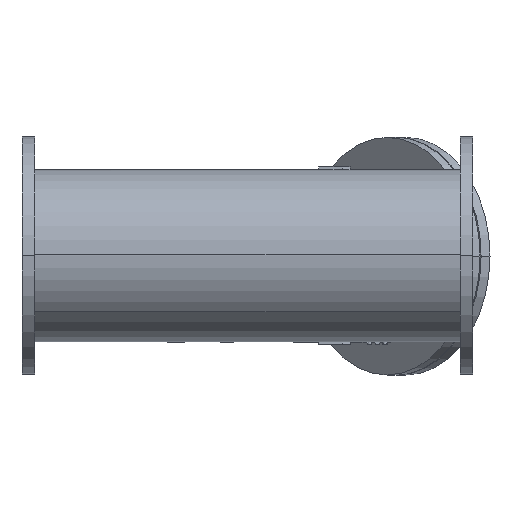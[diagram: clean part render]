
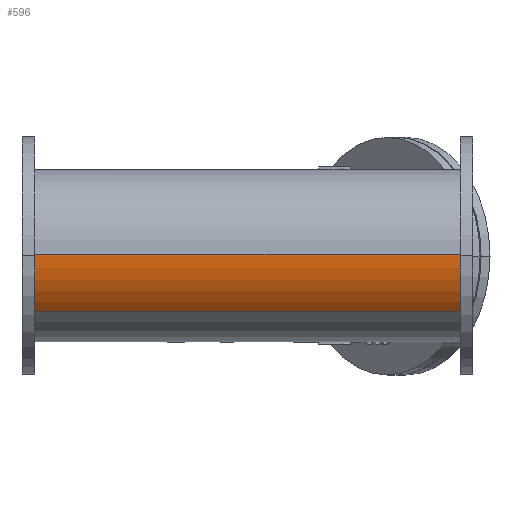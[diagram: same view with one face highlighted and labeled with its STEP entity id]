
A CAD part, top view. The second image highlights one B-rep face of the part: STEP entity #596.
In plain terms, the highlighted cylindrical face has radius 177.8 mm (diameter 355.6 mm), a partial arc.
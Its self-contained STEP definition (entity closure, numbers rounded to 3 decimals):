
#596=ADVANCED_FACE('',(#1703),#1702,.T.);
#1702=CYLINDRICAL_SURFACE('',#5075,177.8);
#1703=FACE_OUTER_BOUND('',#5076,.T.);
#5072=CARTESIAN_POINT('',(0.,0.,0.));
#5073=DIRECTION('',(1.,0.,0.));
#5074=DIRECTION('',(0.,0.009,1.));
#5075=AXIS2_PLACEMENT_3D('',#5072,#5073,#5074);
#5076=EDGE_LOOP('',(#6674,#6675,#6676,#6677,#6678,#6679));
#6674=ORIENTED_EDGE('',*,*,#7573,.T.);
#6675=ORIENTED_EDGE('',*,*,#7575,.T.);
#6676=ORIENTED_EDGE('',*,*,#7598,.F.);
#6677=ORIENTED_EDGE('',*,*,#7534,.F.);
#6678=ORIENTED_EDGE('',*,*,#7536,.F.);
#6679=ORIENTED_EDGE('',*,*,#7599,.T.);
#7534=EDGE_CURVE('',#9815,#9816,#9817,.T.);
#7536=EDGE_CURVE('',#9823,#9815,#9830,.T.);
#7573=EDGE_CURVE('',#10088,#10089,#10090,.T.);
#7575=EDGE_CURVE('',#10089,#10096,#10103,.T.);
#7598=EDGE_CURVE('',#9816,#10096,#10257,.T.);
#7599=EDGE_CURVE('',#9823,#10088,#10263,.T.);
#9815=VERTEX_POINT('',#13814);
#9816=VERTEX_POINT('',#13815);
#9817=CIRCLE('',#13819,177.8);
#9823=VERTEX_POINT('',#13820);
#9830=CIRCLE('',#13828,177.8);
#10088=VERTEX_POINT('',#14009);
#10089=VERTEX_POINT('',#14010);
#10090=CIRCLE('',#14014,177.8);
#10096=VERTEX_POINT('',#14015);
#10103=CIRCLE('',#14023,177.8);
#10257=(BOUNDED_CURVE() B_SPLINE_CURVE(1,(#14358,#14359),.UNSPECIFIED.,.F.,.F.) B_SPLINE_CURVE_WITH_KNOTS((2,2),(0.011,0.989),.UNSPECIFIED.) CURVE() GEOMETRIC_REPRESENTATION_ITEM() RATIONAL_B_SPLINE_CURVE((1.,1.)) REPRESENTATION_ITEM('') );
#10263=(BOUNDED_CURVE() B_SPLINE_CURVE(1,(#14360,#14361),.UNSPECIFIED.,.F.,.F.) B_SPLINE_CURVE_WITH_KNOTS((2,2),(0.011,0.989),.UNSPECIFIED.) CURVE() GEOMETRIC_REPRESENTATION_ITEM() RATIONAL_B_SPLINE_CURVE((0.77,0.77)) REPRESENTATION_ITEM('') );
#13814=CARTESIAN_POINT('',(26.,0.,177.8));
#13815=CARTESIAN_POINT('',(26.,1.552,177.793));
#13816=CARTESIAN_POINT('',(26.,0.,0.));
#13817=DIRECTION('',(-1.,0.,0.));
#13818=DIRECTION('',(0.,0.,1.));
#13819=AXIS2_PLACEMENT_3D('',#13816,#13817,#13818);
#13820=CARTESIAN_POINT('',(26.,-116.202,134.574));
#13825=CARTESIAN_POINT('',(26.,0.,0.));
#13826=DIRECTION('',(-1.,0.,0.));
#13827=DIRECTION('',(0.,0.,1.));
#13828=AXIS2_PLACEMENT_3D('',#13825,#13826,#13827);
#14009=CARTESIAN_POINT('',(904.,-116.202,134.574));
#14010=CARTESIAN_POINT('',(904.,0.,177.8));
#14011=CARTESIAN_POINT('',(904.,0.,0.));
#14012=DIRECTION('',(-1.,0.,0.));
#14013=DIRECTION('',(0.,0.,1.));
#14014=AXIS2_PLACEMENT_3D('',#14011,#14012,#14013);
#14015=CARTESIAN_POINT('',(904.,1.552,177.793));
#14020=CARTESIAN_POINT('',(904.,0.,0.));
#14021=DIRECTION('',(-1.,0.,0.));
#14022=DIRECTION('',(0.,0.,1.));
#14023=AXIS2_PLACEMENT_3D('',#14020,#14021,#14022);
#14358=CARTESIAN_POINT('',(26.,1.552,177.793));
#14359=CARTESIAN_POINT('',(904.,1.552,177.793));
#14360=CARTESIAN_POINT('',(26.,-116.202,134.574));
#14361=CARTESIAN_POINT('',(904.,-116.202,134.574));
